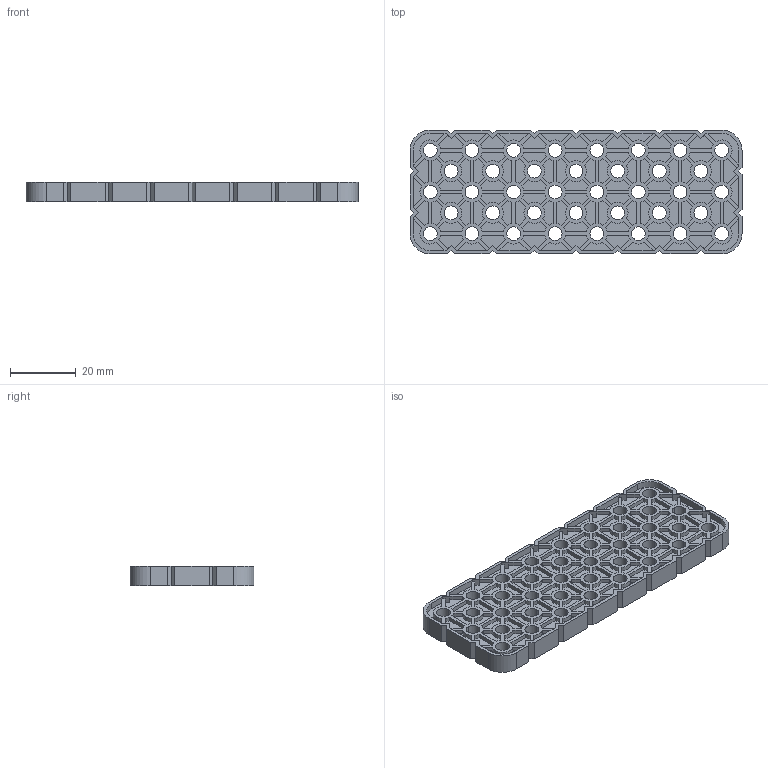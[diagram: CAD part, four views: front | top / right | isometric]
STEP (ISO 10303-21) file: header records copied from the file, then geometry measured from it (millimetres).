
FILE_DESCRIPTION (( 'STEP AP214' ), '1' );
FILE_NAME ('228-2500-035.STEP', '2021-02-18T19:42:03', ( '' ), ( '' ), 'SwSTEP 2.0', 'SolidWorks 2019', '' );
FILE_SCHEMA (( 'AUTOMOTIVE_DESIGN' ));
Length unit declared in the file: millimetre
Products named in the file (1): 228-2500-035
Bounding box: 101.3 x 37.8 x 6.1 mm (x, y, z)
Volume: 10749.8 mm3; surface area: 15674.9 mm2
Topology: 1 solids, 1 shells, 1446 faces, 3990 edges, 2660 vertices
Faces by surface type: plane 878, cylinder 568
Entity records: 46376 total; most frequent: CARTESIAN_POINT 8097, DIRECTION 8020, ORIENTED_EDGE 7980, EDGE_CURVE 3990, LINE 2854, VECTOR 2854, VERTEX_POINT 2660, AXIS2_PLACEMENT_3D 2583
